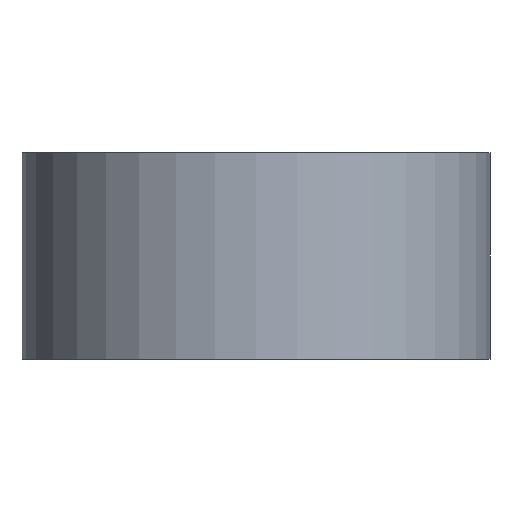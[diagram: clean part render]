
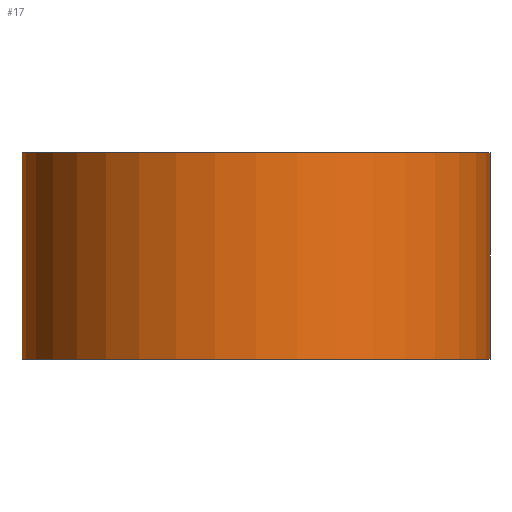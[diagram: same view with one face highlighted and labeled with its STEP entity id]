
A CAD part, front view. The second image highlights one B-rep face of the part: STEP entity #17.
In plain terms, the highlighted cylindrical face has radius 34 mm (diameter 68 mm), a full revolution.
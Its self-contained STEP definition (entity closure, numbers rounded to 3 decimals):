
#17 = ADVANCED_FACE('',(#18),#32,.T.);
#18 = FACE_BOUND('',#19,.T.);
#19 = EDGE_LOOP('',(#20,#50,#81,#82));
#20 = ORIENTED_EDGE('',*,*,#21,.T.);
#21 = EDGE_CURVE('',#22,#24,#26,.T.);
#22 = VERTEX_POINT('',#23);
#23 = CARTESIAN_POINT('',(-34.,0.,12.));
#24 = VERTEX_POINT('',#25);
#25 = CARTESIAN_POINT('',(-34.,0.,42.));
#26 = SEAM_CURVE('',#27,(#31,#43),.PCURVE_S1.);
#27 = LINE('',#28,#29);
#28 = CARTESIAN_POINT('',(-34.,0.,12.));
#29 = VECTOR('',#30,1.);
#30 = DIRECTION('',(-0.,-0.,1.));
#31 = PCURVE('',#32,#37);
#32 = CYLINDRICAL_SURFACE('',#33,34.);
#33 = AXIS2_PLACEMENT_3D('',#34,#35,#36);
#34 = CARTESIAN_POINT('',(0.,0.,12.));
#35 = DIRECTION('',(0.,-0.,-1.));
#36 = DIRECTION('',(-1.,-0.,-0.));
#37 = DEFINITIONAL_REPRESENTATION('',(#38),#42);
#38 = LINE('',#39,#40);
#39 = CARTESIAN_POINT('',(0.,0.));
#40 = VECTOR('',#41,1.);
#41 = DIRECTION('',(0.,-1.));
#42 = ( GEOMETRIC_REPRESENTATION_CONTEXT(2) 
PARAMETRIC_REPRESENTATION_CONTEXT() REPRESENTATION_CONTEXT('2D SPACE',''
  ) );
#43 = PCURVE('',#32,#44);
#44 = DEFINITIONAL_REPRESENTATION('',(#45),#49);
#45 = LINE('',#46,#47);
#46 = CARTESIAN_POINT('',(6.283,0.));
#47 = VECTOR('',#48,1.);
#48 = DIRECTION('',(0.,-1.));
#49 = ( GEOMETRIC_REPRESENTATION_CONTEXT(2) 
PARAMETRIC_REPRESENTATION_CONTEXT() REPRESENTATION_CONTEXT('2D SPACE',''
  ) );
#50 = ORIENTED_EDGE('',*,*,#51,.T.);
#51 = EDGE_CURVE('',#24,#24,#52,.T.);
#52 = SURFACE_CURVE('',#53,(#58,#65),.PCURVE_S1.);
#53 = CIRCLE('',#54,34.);
#54 = AXIS2_PLACEMENT_3D('',#55,#56,#57);
#55 = CARTESIAN_POINT('',(0.,0.,42.));
#56 = DIRECTION('',(0.,0.,-1.));
#57 = DIRECTION('',(-1.,-0.,-0.));
#58 = PCURVE('',#32,#59);
#59 = DEFINITIONAL_REPRESENTATION('',(#60),#64);
#60 = LINE('',#61,#62);
#61 = CARTESIAN_POINT('',(0.,-30.));
#62 = VECTOR('',#63,1.);
#63 = DIRECTION('',(1.,0.));
#64 = ( GEOMETRIC_REPRESENTATION_CONTEXT(2) 
PARAMETRIC_REPRESENTATION_CONTEXT() REPRESENTATION_CONTEXT('2D SPACE',''
  ) );
#65 = PCURVE('',#66,#71);
#66 = PLANE('',#67);
#67 = AXIS2_PLACEMENT_3D('',#68,#69,#70);
#68 = CARTESIAN_POINT('',(0.,0.,42.));
#69 = DIRECTION('',(-0.,-0.,1.));
#70 = DIRECTION('',(1.,0.,0.));
#71 = DEFINITIONAL_REPRESENTATION('',(#72),#80);
#72 = ( BOUNDED_CURVE() B_SPLINE_CURVE(2,(#73,#74,#75,#76,#77,#78,#79),
.UNSPECIFIED.,.T.,.F.) B_SPLINE_CURVE_WITH_KNOTS((1,2,2,2,2,1),(
    -2.094,0.,2.094,4.189,6.283,
8.378),.UNSPECIFIED.) CURVE() GEOMETRIC_REPRESENTATION_ITEM() 
RATIONAL_B_SPLINE_CURVE((1.,0.5,1.,0.5,1.,0.5,1.)) REPRESENTATION_ITEM(
  '') );
#73 = CARTESIAN_POINT('',(-34.,0.));
#74 = CARTESIAN_POINT('',(-34.,58.89));
#75 = CARTESIAN_POINT('',(17.,29.445));
#76 = CARTESIAN_POINT('',(68.,0.));
#77 = CARTESIAN_POINT('',(17.,-29.445));
#78 = CARTESIAN_POINT('',(-34.,-58.89));
#79 = CARTESIAN_POINT('',(-34.,0.));
#80 = ( GEOMETRIC_REPRESENTATION_CONTEXT(2) 
PARAMETRIC_REPRESENTATION_CONTEXT() REPRESENTATION_CONTEXT('2D SPACE',''
  ) );
#81 = ORIENTED_EDGE('',*,*,#21,.F.);
#82 = ORIENTED_EDGE('',*,*,#83,.F.);
#83 = EDGE_CURVE('',#22,#22,#84,.T.);
#84 = SURFACE_CURVE('',#85,(#90,#97),.PCURVE_S1.);
#85 = CIRCLE('',#86,34.);
#86 = AXIS2_PLACEMENT_3D('',#87,#88,#89);
#87 = CARTESIAN_POINT('',(0.,0.,12.));
#88 = DIRECTION('',(0.,0.,-1.));
#89 = DIRECTION('',(-1.,-0.,-0.));
#90 = PCURVE('',#32,#91);
#91 = DEFINITIONAL_REPRESENTATION('',(#92),#96);
#92 = LINE('',#93,#94);
#93 = CARTESIAN_POINT('',(0.,0.));
#94 = VECTOR('',#95,1.);
#95 = DIRECTION('',(1.,0.));
#96 = ( GEOMETRIC_REPRESENTATION_CONTEXT(2) 
PARAMETRIC_REPRESENTATION_CONTEXT() REPRESENTATION_CONTEXT('2D SPACE',''
  ) );
#97 = PCURVE('',#98,#103);
#98 = PLANE('',#99);
#99 = AXIS2_PLACEMENT_3D('',#100,#101,#102);
#100 = CARTESIAN_POINT('',(0.,0.,12.));
#101 = DIRECTION('',(-0.,-0.,1.));
#102 = DIRECTION('',(1.,0.,0.));
#103 = DEFINITIONAL_REPRESENTATION('',(#104),#112);
#104 = ( BOUNDED_CURVE() B_SPLINE_CURVE(2,(#105,#106,#107,#108,#109,#110
,#111),.UNSPECIFIED.,.T.,.F.) B_SPLINE_CURVE_WITH_KNOTS((1,2,2,2,2,1),(
    -2.094,0.,2.094,4.189,6.283,
8.378),.UNSPECIFIED.) CURVE() GEOMETRIC_REPRESENTATION_ITEM() 
RATIONAL_B_SPLINE_CURVE((1.,0.5,1.,0.5,1.,0.5,1.)) REPRESENTATION_ITEM(
  '') );
#105 = CARTESIAN_POINT('',(-34.,0.));
#106 = CARTESIAN_POINT('',(-34.,58.89));
#107 = CARTESIAN_POINT('',(17.,29.445));
#108 = CARTESIAN_POINT('',(68.,0.));
#109 = CARTESIAN_POINT('',(17.,-29.445));
#110 = CARTESIAN_POINT('',(-34.,-58.89));
#111 = CARTESIAN_POINT('',(-34.,0.));
#112 = ( GEOMETRIC_REPRESENTATION_CONTEXT(2) 
PARAMETRIC_REPRESENTATION_CONTEXT() REPRESENTATION_CONTEXT('2D SPACE',''
  ) );
